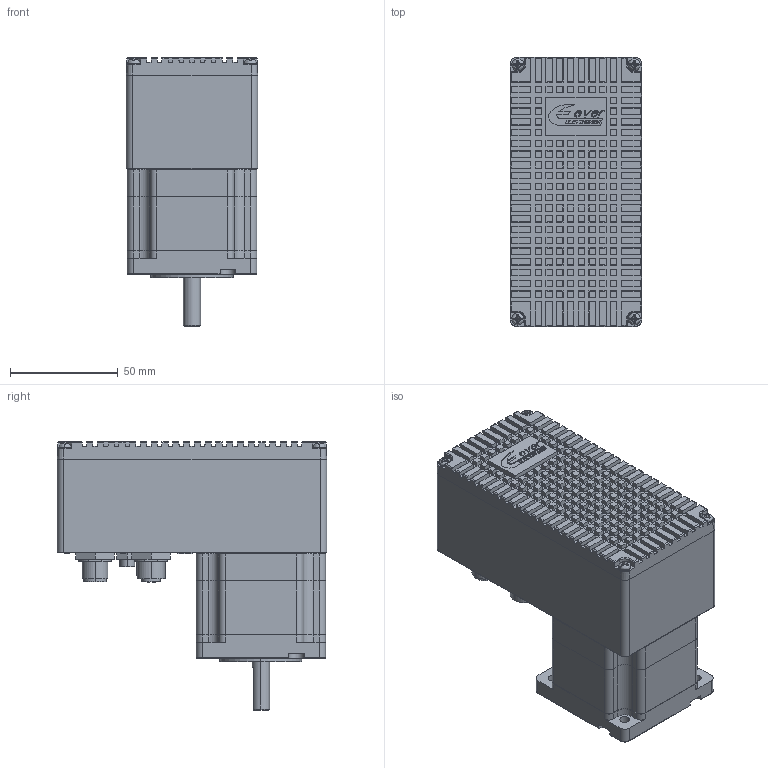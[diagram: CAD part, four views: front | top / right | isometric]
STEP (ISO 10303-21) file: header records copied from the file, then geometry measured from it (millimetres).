
FILE_DESCRIPTION((''),'2;1');
FILE_NAME('SM1AX42PXX42XX0_ASM','2020-07-28T14:01:45',('Matteo Maccalli'),(''),'CREO PARAMETRIC BY PTC INC, 2019344','CREO PARAMETRIC BY PTC INC, 2019344','');
FILE_SCHEMA(('AUTOMOTIVE_DESIGN { 1 0 10303 214 1 1 1 1 }'));
Products named in the file (26): ESTRUSO_24MD; RK_00782-00; ORING_1E5_HEAT_SINK_SM1A; BOX_24MD_ALT45MM; ORING_1E5_BOX_SM1A; ACC_2E9X13; TCB_M3X08; FRONT_FLANGE_24FK26042B4DF; STATOR_STACK_24FK18; REAR_FLANGE_MT24FK_EVER; SHAFT_24FK18_BIALBERO_6_35MM_SP; DK_3_5_8-2; A_7C55MPSS2208; MT24FK18042B4DF_ASM; HXE-02_CAVO_LAT; MAR-PN2E5; MAR_SN2E5; TCC_M2E5X05; LTW12-05PMMS-SF8001; LTW12-05PFFS-SF8001; LTW8-03PMMS-SF7001; LTWBU-12PMMS-SC7001; LTWBD-06PMMS-SC7001; DADO_LTW12-05PMMS-SF8001; DADO_LTW8-03PMMS; SM1AX42PXX42XX0_ASM
Assembly tree (36 placements, depth 3):
  SM1AX42PXX42XX0_ASM
    ESTRUSO_24MD
    RK_00782-00  x2
    ORING_1E5_HEAT_SINK_SM1A
    BOX_24MD_ALT45MM
    ORING_1E5_BOX_SM1A
    ACC_2E9X13  x4
    TCB_M3X08  x4
    MT24FK18042B4DF_ASM
      FRONT_FLANGE_24FK26042B4DF
      STATOR_STACK_24FK18
      REAR_FLANGE_MT24FK_EVER
      SHAFT_24FK18_BIALBERO_6_35MM_SP
      DK_3_5_8-2
      A_7C55MPSS2208  x2
    HXE-02_CAVO_LAT
    MAR-PN2E5
    MAR_SN2E5
    TCC_M2E5X05
    LTW12-05PMMS-SF8001
    LTW12-05PFFS-SF8001
    LTW8-03PMMS-SF7001
    LTWBU-12PMMS-SC7001
    LTWBD-06PMMS-SC7001
    DADO_LTW12-05PMMS-SF8001  x4
    DADO_LTW8-03PMMS
Bounding box: 61 x 125 x 124.5 mm (x, y, z)
Volume: 257965.8 mm3; surface area: 153520.3 mm2
Topology: 35 solids, 48 shells, 4371 faces, 11455 edges, 7508 vertices
Faces by surface type: plane 3110, cylinder 770, bspline 234, cone 172, torus 71, sphere 8, extrusion 6
Entity records: 169625 total; most frequent: CARTESIAN_POINT 33188, ORIENTED_EDGE 21188, DIRECTION 19628, PRESENTATION_STYLE_ASSIGNMENT 10784, EDGE_CURVE 10628, STYLED_ITEM 10526, CURVE_STYLE 10490, VECTOR 8512
